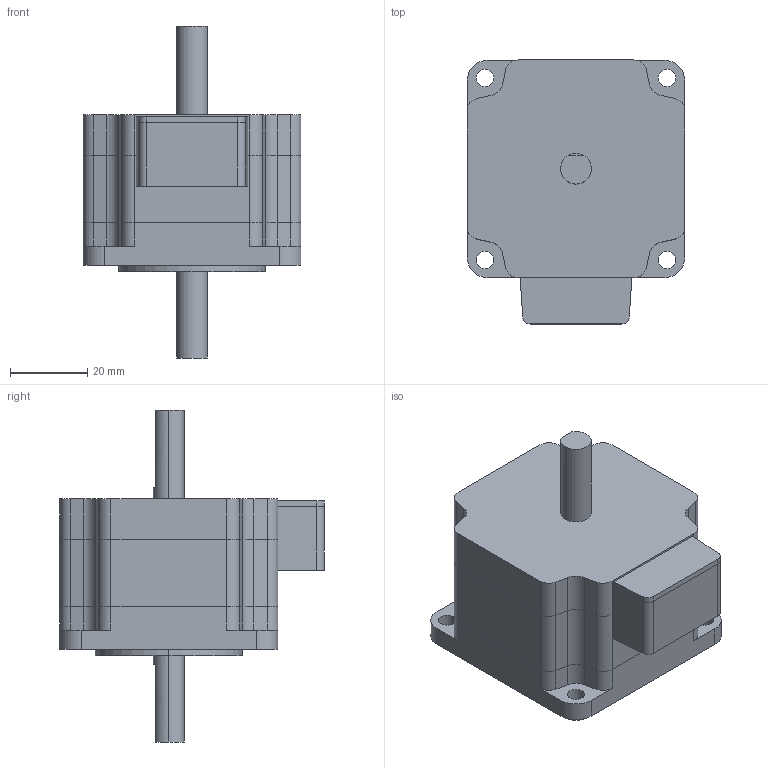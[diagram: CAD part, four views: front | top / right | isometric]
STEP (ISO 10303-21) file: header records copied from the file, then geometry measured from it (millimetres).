
FILE_DESCRIPTION (( 'STEP AP214' ), '1' );
FILE_NAME ('17.PKP264_—¼Ž²ƒ‚ƒfƒ‹.STEP', '2017-01-26T05:04:47', ( 'om' ), ( 'Hewlett-Packard Company' ), 'SwSTEP 2.0', 'SolidWorks 2014', '' );
FILE_SCHEMA (( 'AUTOMOTIVE_DESIGN' ));
Length unit declared in the file: millimetre
Products named in the file (1): 17.PKP264_両軸モデル
Bounding box: 56.4 x 68.4 x 86 mm (x, y, z)
Volume: 118903.7 mm3; surface area: 30783.5 mm2
Topology: 5 solids, 5 shells, 148 faces, 384 edges, 256 vertices
Faces by surface type: plane 76, cylinder 72
Entity records: 5040 total; most frequent: DIRECTION 830, CARTESIAN_POINT 789, ORIENTED_EDGE 768, EDGE_CURVE 384, AXIS2_PLACEMENT_3D 297, VERTEX_POINT 256, LINE 236, VECTOR 236
